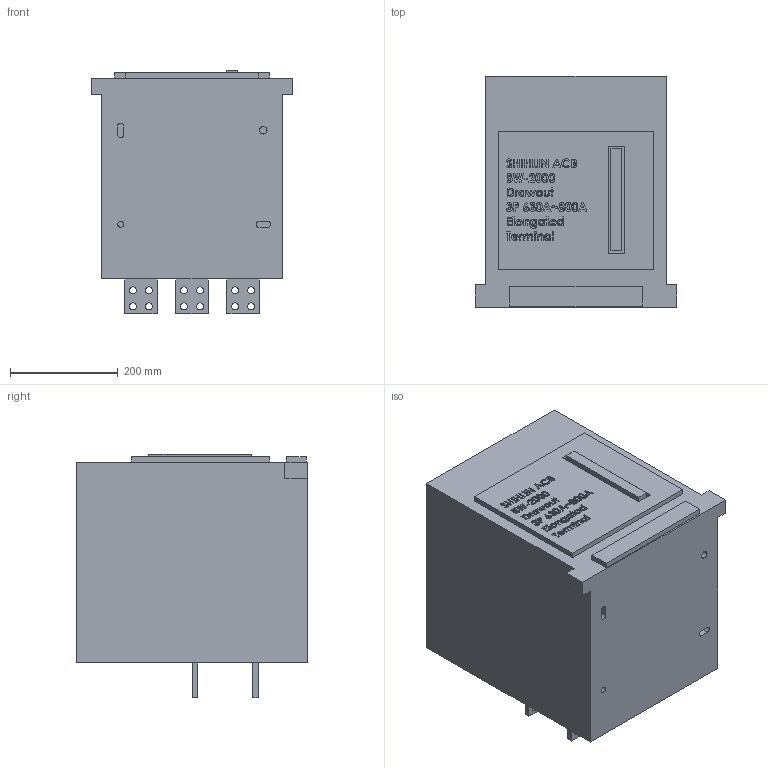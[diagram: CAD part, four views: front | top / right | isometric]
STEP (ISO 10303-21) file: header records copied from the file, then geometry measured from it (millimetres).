
FILE_DESCRIPTION (( 'STEP AP203' ), '1' );
FILE_NAME ('BW-2000-Drawout-3P-630-800A-Elongated Terminal.STEP', '2016-11-03T01:03:56', ( '' ), ( '' ), 'SwSTEP 2.0', 'SolidWorks 2015', '' );
FILE_SCHEMA (( 'CONFIG_CONTROL_DESIGN' ));
Length unit declared in the file: millimetre
Products named in the file (1): BW-2000-Drawout-3P-630-800A-Elongated Terminal
Bounding box: 375 x 430 x 453.5 mm (x, y, z)
Volume: 54834304 mm3; surface area: 986343.8 mm2
Topology: 1 solids, 1 shells, 803 faces, 2121 edges, 1414 vertices
Faces by surface type: plane 449, bspline 297, cylinder 57
Entity records: 40592 total; most frequent: CARTESIAN_POINT 22428, ORIENTED_EDGE 4242, DIRECTION 2655, EDGE_CURVE 2121, VERTEX_POINT 1414, LINE 1413, VECTOR 1413, EDGE_LOOP 945
